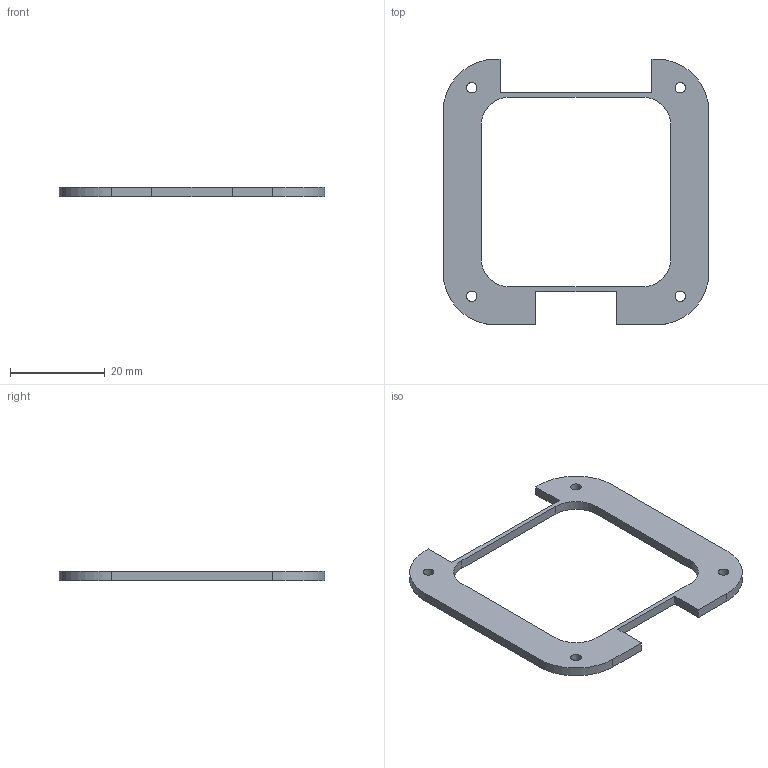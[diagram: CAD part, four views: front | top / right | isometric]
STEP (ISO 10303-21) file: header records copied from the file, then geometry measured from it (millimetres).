
FILE_DESCRIPTION(('Open CASCADE Model'),'2;1');
FILE_NAME('Open CASCADE Shape Model','2026-09-20T13:50:14',('Author'),( 'Open CASCADE'),'Open CASCADE STEP processor 7.7','Open CASCADE 7.7' ,'Unknown');
FILE_SCHEMA(('AUTOMOTIVE_DESIGN { 1 0 10303 214 1 1 1 1 }'));
Length unit declared in the file: millimetre
Products named in the file (1): Open CASCADE STEP translator 7.7 2
Bounding box: 56 x 56 x 2 mm (x, y, z)
Volume: 2209.7 mm3; surface area: 3030.6 mm2
Topology: 1 solids, 1 shells, 30 faces, 84 edges, 56 vertices
Faces by surface type: plane 18, cylinder 12
Full cylindrical faces by diameter (mm): 2.2 x4
Entity records: 2076 total; most frequent: CARTESIAN_POINT 447, DIRECTION 280, ORIENTED_EDGE 168, PCURVE 168, DEFINITIONAL_REPRESENTATION 168, LINE 156, VECTOR 156, EDGE_CURVE 84
